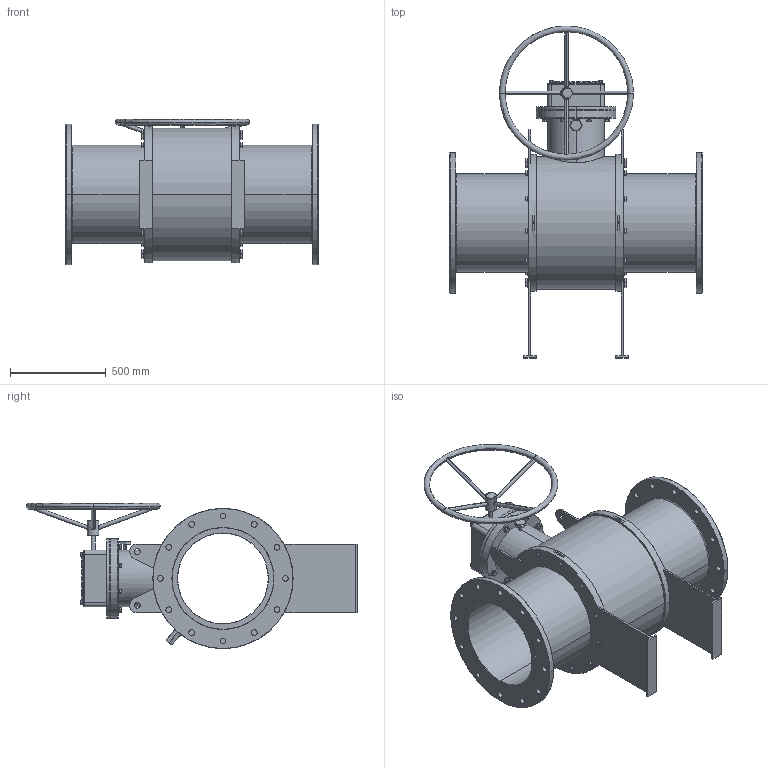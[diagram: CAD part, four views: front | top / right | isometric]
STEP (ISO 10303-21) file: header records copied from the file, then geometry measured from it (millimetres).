
FILE_DESCRIPTION (( 'STEP AP203' ), '1' );
FILE_NAME ('GB2_ANSI_900_20IN_HD.STEP', '2025-10-09T15:14:32', ( '' ), ( '' ), 'SwSTEP 2.0', 'SolidWorks 2025', '' );
FILE_SCHEMA (( 'CONFIG_CONTROL_DESIGN' ));
Length unit declared in the file: millimetre
Products named in the file (3): hex flange screw_am_B18.2.3.4M - Hex flange screw, M16 x 2.0 x 25 --25N; GB2_ANSI_2500_1500_ANSI_900_20IN; GB2_ANSI_900_20IN_HD
Assembly tree (37 placements, depth 2):
  GB2_ANSI_900_20IN_HD
    GB2_ANSI_2500_1500_ANSI_900_20IN
    hex flange screw_am_B18.2.3.4M - Hex flange screw, M16 x 2.0 x 25 --25N  x36
Bounding box: 1321 x 1733 x 759.03 mm (x, y, z)
Volume: 179881277 mm3; surface area: 7937829.1 mm2
Topology: 38 solids, 38 shells, 1607 faces, 3640 edges, 2196 vertices
Faces by surface type: plane 530, cone 392, cylinder 297, bspline 286, torus 96, sphere 6
Entity records: 27424 total; most frequent: CARTESIAN_POINT 12029, ORIENTED_EDGE 2932, DIRECTION 2908, EDGE_CURVE 1466, AXIS2_PLACEMENT_3D 1112, VERTEX_POINT 934, EDGE_LOOP 736, VECTOR 684
